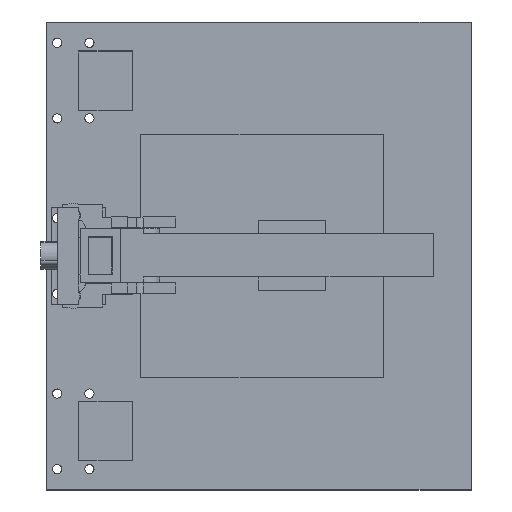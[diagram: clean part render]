
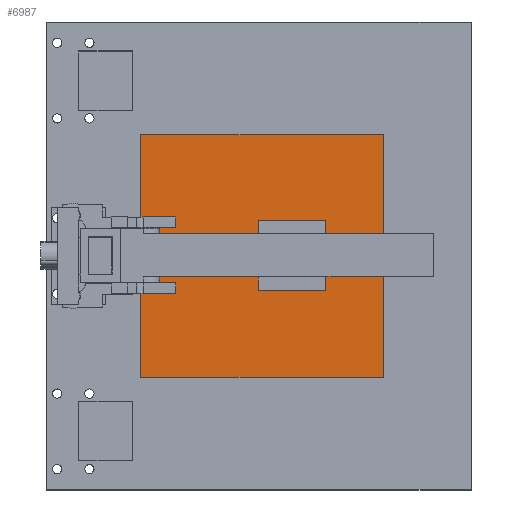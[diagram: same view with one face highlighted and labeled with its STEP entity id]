
A CAD part, top view. The second image highlights one B-rep face of the part: STEP entity #6987.
In plain terms, the highlighted planar face has unit normal (0, 0, 1).
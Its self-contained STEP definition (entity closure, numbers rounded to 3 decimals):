
#6673 = VERTEX_POINT('',#6674);
#6674 = CARTESIAN_POINT('',(-45.,-45.,2.));
#6681 = PLANE('',#6682);
#6682 = AXIS2_PLACEMENT_3D('',#6683,#6684,#6685);
#6683 = CARTESIAN_POINT('',(-45.,-45.,-2.));
#6684 = DIRECTION('',(1.,0.,-0.));
#6685 = DIRECTION('',(0.,0.,1.));
#6693 = PLANE('',#6694);
#6694 = AXIS2_PLACEMENT_3D('',#6695,#6696,#6697);
#6695 = CARTESIAN_POINT('',(-45.,-45.,-2.));
#6696 = DIRECTION('',(-0.,1.,0.));
#6697 = DIRECTION('',(0.,0.,1.));
#6734 = VERTEX_POINT('',#6735);
#6735 = CARTESIAN_POINT('',(-45.,45.,2.));
#6749 = PLANE('',#6750);
#6750 = AXIS2_PLACEMENT_3D('',#6751,#6752,#6753);
#6751 = CARTESIAN_POINT('',(-45.,45.,-2.));
#6752 = DIRECTION('',(-0.,1.,0.));
#6753 = DIRECTION('',(0.,0.,1.));
#6761 = EDGE_CURVE('',#6673,#6734,#6762,.T.);
#6762 = SURFACE_CURVE('',#6763,(#6767,#6774),.PCURVE_S1.);
#6763 = LINE('',#6764,#6765);
#6764 = CARTESIAN_POINT('',(-45.,-45.,2.));
#6765 = VECTOR('',#6766,1.);
#6766 = DIRECTION('',(-0.,1.,0.));
#6767 = PCURVE('',#6681,#6768);
#6768 = DEFINITIONAL_REPRESENTATION('',(#6769),#6773);
#6769 = LINE('',#6770,#6771);
#6770 = CARTESIAN_POINT('',(4.,0.));
#6771 = VECTOR('',#6772,1.);
#6772 = DIRECTION('',(0.,-1.));
#6773 = ( GEOMETRIC_REPRESENTATION_CONTEXT(2) 
PARAMETRIC_REPRESENTATION_CONTEXT() REPRESENTATION_CONTEXT('2D SPACE',''
  ) );
#6774 = PCURVE('',#6775,#6780);
#6775 = PLANE('',#6776);
#6776 = AXIS2_PLACEMENT_3D('',#6777,#6778,#6779);
#6777 = CARTESIAN_POINT('',(-45.,-45.,2.));
#6778 = DIRECTION('',(0.,0.,1.));
#6779 = DIRECTION('',(1.,0.,-0.));
#6780 = DEFINITIONAL_REPRESENTATION('',(#6781),#6785);
#6781 = LINE('',#6782,#6783);
#6782 = CARTESIAN_POINT('',(0.,0.));
#6783 = VECTOR('',#6784,1.);
#6784 = DIRECTION('',(0.,1.));
#6785 = ( GEOMETRIC_REPRESENTATION_CONTEXT(2) 
PARAMETRIC_REPRESENTATION_CONTEXT() REPRESENTATION_CONTEXT('2D SPACE',''
  ) );
#6793 = VERTEX_POINT('',#6794);
#6794 = CARTESIAN_POINT('',(45.,-45.,2.));
#6801 = PLANE('',#6802);
#6802 = AXIS2_PLACEMENT_3D('',#6803,#6804,#6805);
#6803 = CARTESIAN_POINT('',(45.,-45.,-2.));
#6804 = DIRECTION('',(1.,0.,-0.));
#6805 = DIRECTION('',(0.,0.,1.));
#6844 = VERTEX_POINT('',#6845);
#6845 = CARTESIAN_POINT('',(45.,45.,2.));
#6866 = EDGE_CURVE('',#6793,#6844,#6867,.T.);
#6867 = SURFACE_CURVE('',#6868,(#6872,#6879),.PCURVE_S1.);
#6868 = LINE('',#6869,#6870);
#6869 = CARTESIAN_POINT('',(45.,-45.,2.));
#6870 = VECTOR('',#6871,1.);
#6871 = DIRECTION('',(-0.,1.,0.));
#6872 = PCURVE('',#6801,#6873);
#6873 = DEFINITIONAL_REPRESENTATION('',(#6874),#6878);
#6874 = LINE('',#6875,#6876);
#6875 = CARTESIAN_POINT('',(4.,0.));
#6876 = VECTOR('',#6877,1.);
#6877 = DIRECTION('',(0.,-1.));
#6878 = ( GEOMETRIC_REPRESENTATION_CONTEXT(2) 
PARAMETRIC_REPRESENTATION_CONTEXT() REPRESENTATION_CONTEXT('2D SPACE',''
  ) );
#6879 = PCURVE('',#6775,#6880);
#6880 = DEFINITIONAL_REPRESENTATION('',(#6881),#6885);
#6881 = LINE('',#6882,#6883);
#6882 = CARTESIAN_POINT('',(90.,0.));
#6883 = VECTOR('',#6884,1.);
#6884 = DIRECTION('',(0.,1.));
#6885 = ( GEOMETRIC_REPRESENTATION_CONTEXT(2) 
PARAMETRIC_REPRESENTATION_CONTEXT() REPRESENTATION_CONTEXT('2D SPACE',''
  ) );
#6912 = EDGE_CURVE('',#6673,#6793,#6913,.T.);
#6913 = SURFACE_CURVE('',#6914,(#6918,#6925),.PCURVE_S1.);
#6914 = LINE('',#6915,#6916);
#6915 = CARTESIAN_POINT('',(-45.,-45.,2.));
#6916 = VECTOR('',#6917,1.);
#6917 = DIRECTION('',(1.,0.,-0.));
#6918 = PCURVE('',#6693,#6919);
#6919 = DEFINITIONAL_REPRESENTATION('',(#6920),#6924);
#6920 = LINE('',#6921,#6922);
#6921 = CARTESIAN_POINT('',(4.,0.));
#6922 = VECTOR('',#6923,1.);
#6923 = DIRECTION('',(0.,1.));
#6924 = ( GEOMETRIC_REPRESENTATION_CONTEXT(2) 
PARAMETRIC_REPRESENTATION_CONTEXT() REPRESENTATION_CONTEXT('2D SPACE',''
  ) );
#6925 = PCURVE('',#6775,#6926);
#6926 = DEFINITIONAL_REPRESENTATION('',(#6927),#6931);
#6927 = LINE('',#6928,#6929);
#6928 = CARTESIAN_POINT('',(0.,0.));
#6929 = VECTOR('',#6930,1.);
#6930 = DIRECTION('',(1.,0.));
#6931 = ( GEOMETRIC_REPRESENTATION_CONTEXT(2) 
PARAMETRIC_REPRESENTATION_CONTEXT() REPRESENTATION_CONTEXT('2D SPACE',''
  ) );
#6959 = EDGE_CURVE('',#6734,#6844,#6960,.T.);
#6960 = SURFACE_CURVE('',#6961,(#6965,#6972),.PCURVE_S1.);
#6961 = LINE('',#6962,#6963);
#6962 = CARTESIAN_POINT('',(-45.,45.,2.));
#6963 = VECTOR('',#6964,1.);
#6964 = DIRECTION('',(1.,0.,-0.));
#6965 = PCURVE('',#6749,#6966);
#6966 = DEFINITIONAL_REPRESENTATION('',(#6967),#6971);
#6967 = LINE('',#6968,#6969);
#6968 = CARTESIAN_POINT('',(4.,0.));
#6969 = VECTOR('',#6970,1.);
#6970 = DIRECTION('',(0.,1.));
#6971 = ( GEOMETRIC_REPRESENTATION_CONTEXT(2) 
PARAMETRIC_REPRESENTATION_CONTEXT() REPRESENTATION_CONTEXT('2D SPACE',''
  ) );
#6972 = PCURVE('',#6775,#6973);
#6973 = DEFINITIONAL_REPRESENTATION('',(#6974),#6978);
#6974 = LINE('',#6975,#6976);
#6975 = CARTESIAN_POINT('',(0.,90.));
#6976 = VECTOR('',#6977,1.);
#6977 = DIRECTION('',(1.,0.));
#6978 = ( GEOMETRIC_REPRESENTATION_CONTEXT(2) 
PARAMETRIC_REPRESENTATION_CONTEXT() REPRESENTATION_CONTEXT('2D SPACE',''
  ) );
#6987 = ADVANCED_FACE('',(#6988),#6775,.T.);
#6988 = FACE_BOUND('',#6989,.T.);
#6989 = EDGE_LOOP('',(#6990,#6991,#6992,#6993));
#6990 = ORIENTED_EDGE('',*,*,#6761,.F.);
#6991 = ORIENTED_EDGE('',*,*,#6912,.T.);
#6992 = ORIENTED_EDGE('',*,*,#6866,.T.);
#6993 = ORIENTED_EDGE('',*,*,#6959,.F.);
